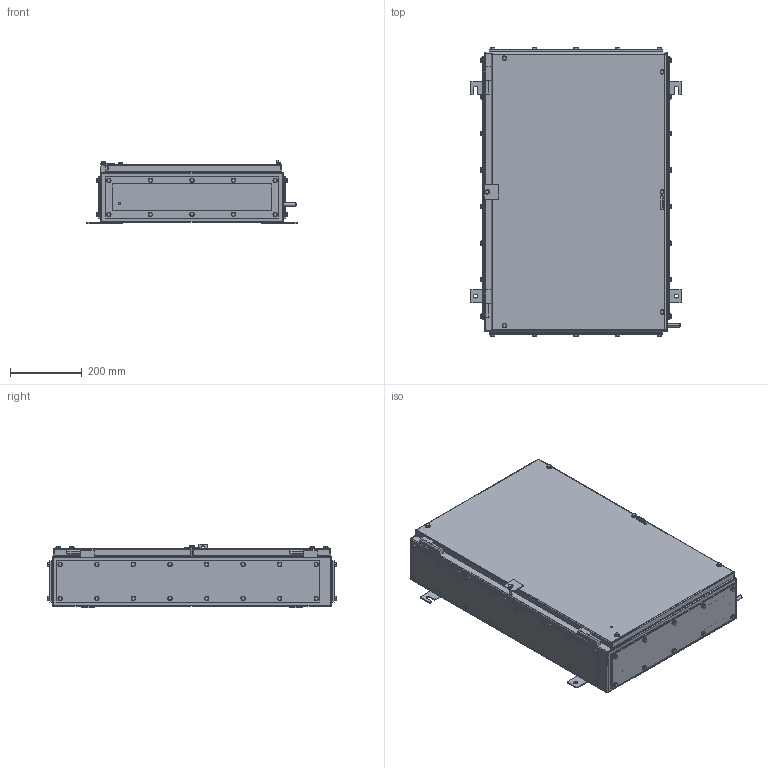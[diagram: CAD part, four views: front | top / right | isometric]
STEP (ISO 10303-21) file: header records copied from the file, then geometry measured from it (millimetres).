
FILE_DESCRIPTION (( 'STEP AP203' ), '1' );
FILE_NAME ('SX6_140_4GP.STEP', '2021-05-20T08:18:33', ( '' ), ( '' ), 'SwSTEP 2.0', 'SolidWorks 2020', '' );
FILE_SCHEMA (( 'CONFIG_CONTROL_DESIGN' ));
Length unit declared in the file: millimetre
Products named in the file (11): SX6_140_4GP; SX6-140 side Gland plate; hex screw gradec_bsi_BS EN 24018 - M6 x 16-WN; SX6 Door; hex screw gradec_bsi_BS EN 24018 - M6 x 20-WN; SX6_140_4GP Body; SX6-140 Base Gasket; plain washer form a_bsi_Bright washer BS 4320 - M6 (Form A); SX6-140 Base Gland plate; SX6-140 side Gasket; hex screw gradec_iso_ISO 4018 - M6 x 30-WN
Assembly tree (126 placements, depth 2):
  SX6_140_4GP
    SX6_140_4GP Body
    SX6-140 Base Gasket  x2
    SX6-140 side Gasket  x2
    SX6-140 side Gland plate  x2
    SX6-140 Base Gland plate  x2
    hex screw gradec_bsi_BS EN 24018 - M6 x 16-WN  x52
    plain washer form a_bsi_Bright washer BS 4320 - M6 (Form A)  x58
    SX6 Door
    hex screw gradec_bsi_BS EN 24018 - M6 x 20-WN  x5
    hex screw gradec_iso_ISO 4018 - M6 x 30-WN
Bounding box: 590 x 803.95 x 176 mm (x, y, z)
Volume: 3569615.6 mm3; surface area: 3170300.5 mm2
Topology: 126 solids, 126 shells, 2937 faces, 6390 edges, 3864 vertices
Faces by surface type: plane 1327, cylinder 1084, cone 474, sphere 44, torus 8
Entity records: 32533 total; most frequent: DIRECTION 5454, CARTESIAN_POINT 4847, ORIENTED_EDGE 4372, AXIS2_PLACEMENT_3D 2207, EDGE_CURVE 2186, VERTEX_POINT 1384, EDGE_LOOP 1252, CIRCLE 1110
